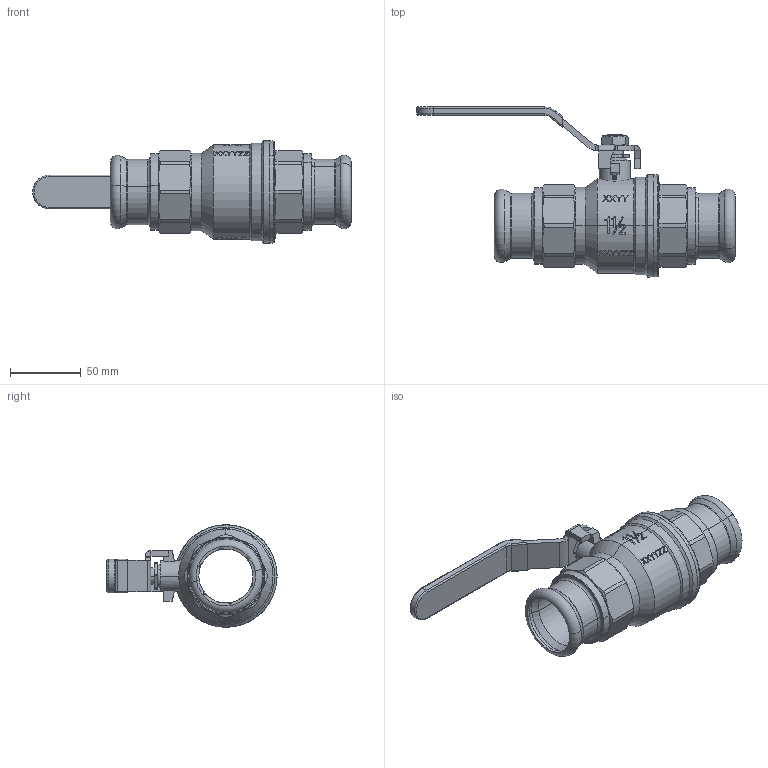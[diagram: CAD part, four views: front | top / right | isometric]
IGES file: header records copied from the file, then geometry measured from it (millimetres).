
Global section: file name: No Iges File Name specified; native system: AutoDesk Inventor R12.0; preprocessor: AutoDesk Inventor Iges Exporter R12.0; date: 20120118.140423; units: millimetre
Bounding box: 225.1 x 120.15 x 72.3 mm (x, y, z)
Volume: 216404.6 mm3; surface area: 100660.8 mm2
Topology: 1 solids, 8 shells, 986 faces, 2979 edges, 2123 vertices
Faces by surface type: plane 432, bspline 210, revolution 114, cylinder 112, cone 82, torus 32, sphere 4
